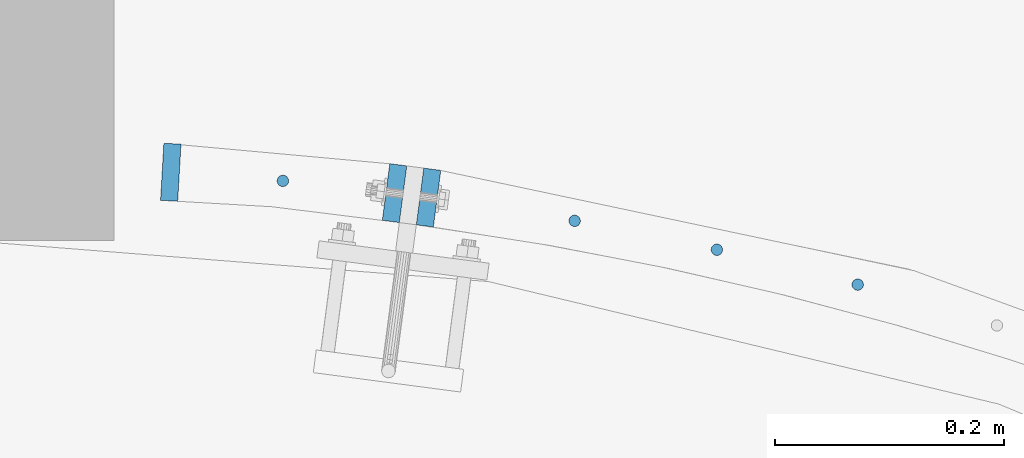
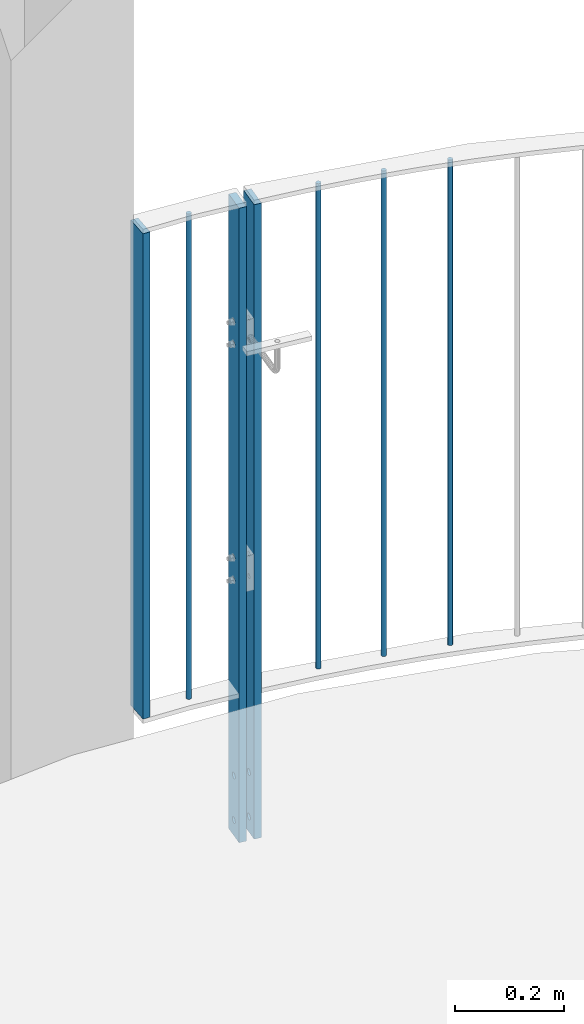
# One storey, part 76 of 296: 7 columns, 12 openings.
"""IFC2X3 building model written with IfcOpenShell, lengths in millimetres."""

from ifc_helpers import new_model, entity, si_unit, converted_unit, frame, frame_2d, origin, origin_with_axes, origin_2d, place, context, project, spatial, rectangle, circle, extrude, material, element, save


model = new_model("IFC2X3")

# Units and contexts
model_context = context("Model", 3, precision=1e-09, world=origin_with_axes())
ifc_project = project(units=[si_unit("LENGTHUNIT", "METRE", prefix="MILLI"), si_unit("AREAUNIT", "SQUARE_METRE"), si_unit("VOLUMEUNIT", "CUBIC_METRE"), converted_unit("PLANEANGLEUNIT", "DEGREE", entity("IfcPlaneAngleMeasure", 0.01745329), si_unit("PLANEANGLEUNIT", "RADIAN"), dimensions=[0, 0, 0, 0, 0, 0, 0])], contexts=[model_context])

# Site, building, storey
site_placement = place(None, origin_with_axes())
site = spatial("IfcSite", under=ifc_project, at=site_placement, Name="TZD-S?d | Treppenhausgel?nder", CompositionType="ELEMENT")
building_placement = place(site_placement, origin_with_axes())
building = spatial("IfcBuilding", under=site, at=building_placement, Name="Struktur 1", CompositionType="ELEMENT")
storey_placement = place(building_placement, origin_with_axes())
storey = spatial("IfcBuildingStorey", under=building, at=storey_placement, Name="Default Storey", CompositionType="ELEMENT", Elevation=0.0)

# Columns
ifc_material = material(Name="S235JR")
for number, where, z_axis, x_axis in (
    (1, (3705.629638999, 2786.294675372, 2450.0), (0.0, 0.0, -1.0), (-0.766044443, 0.64278761, 0.0)),
    (2, (3582.399315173, 2816.831044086, 2450.0), (0.0, 0.0, -1.0), (-0.766044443, 0.64278761, 0.0)),
    (3, (3457.983775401, 2842.108622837, 2450.0), (0.0, 0.0, -1.0), (-0.766044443, 0.64278761, 0.0)),
    (4, (3202.68123547, 2877.077951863, 2450.0), (0.0, 0.0, -1.0), (0.0, 1.0, 0.0)),
):
    element("IfcColumn", number, at=place(None, frame(where, z_axis=z_axis, x_axis=x_axis)), inside=storey, material=ifc_material, Name="-", ObjectType="-", context=model_context, shape_type="SweptSolid", body=[
        extrude(circle(Radius=5.0, at=origin_2d()), origin(), (0.0, 0.0, -1.0), 1090.0),
    ])
column_1_placement = place(None, frame((3104.604004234, 2884.610301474, 3540.0), z_axis=(0.0, 0.0, -1.0), x_axis=(0.998341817, -0.057564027, 0.0)))
element("IfcColumn", 5, at=column_1_placement, inside=storey, material=ifc_material, Name="-", ObjectType="-", context=model_context, shape_type="SweptSolid", body=[
    extrude(rectangle(XDim=15.0, YDim=50.0, at=origin_2d()), origin(), (0.0, 0.0, 1.0), 1090.0),
])

# Column, openings
column_2_placement = place(None, frame((3330.144987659, 2862.462242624, 2115.001), z_axis=(0.0, 0.0, -1.0), x_axis=(-0.991444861, 0.130526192, 0.0)))
column_2 = element("IfcColumn", 6, at=column_2_placement, inside=storey, material=ifc_material, Name="-", ObjectType="-", context=model_context, shape_type="SweptSolid", body=[
    extrude(rectangle(XDim=15.0, YDim=50.0, at=origin_2d()), origin(), (0.0, 0.0, -1.0), 1424.999),
])
opening_1_placement = place(column_2_placement, frame((8.0, 5.001, -624.999999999), z_axis=(1.0, 0.0, 0.0), x_axis=(0.0, 1.0, 0.0)))
element("IfcOpeningElement", 7, at=opening_1_placement, cuts=column_2, ObjectType="Opening", context=model_context, shape_type="SweptSolid", body=[
    extrude(circle(Radius=5.001, at=frame_2d((-5.001, 0.0), x_axis=(1.0, 0.0))), origin(), (0.0, 0.0, -1.0), 16.0),
])
opening_2_placement = place(column_2_placement, frame((8.0, 5.001, -574.999999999), z_axis=(1.0, 0.0, 0.0), x_axis=(0.0, 1.0, 0.0)))
element("IfcOpeningElement", 8, at=opening_2_placement, cuts=column_2, ObjectType="Opening", context=model_context, shape_type="SweptSolid", body=[
    extrude(circle(Radius=5.001, at=frame_2d((-5.001, 0.0), x_axis=(1.0, 0.0))), origin(), (0.0, 0.0, -1.0), 16.0),
])
opening_3_placement = place(column_2_placement, frame((8.0, 7.001, -135.0), z_axis=(1.0, 0.0, 0.0), x_axis=(0.0, 1.0, 0.0)))
element("IfcOpeningElement", 9, at=opening_3_placement, cuts=column_2, ObjectType="Opening", context=model_context, shape_type="SweptSolid", body=[
    extrude(circle(Radius=7.001, at=frame_2d((-7.001, 0.0), x_axis=(1.0, 0.0))), origin(), (0.0, 0.0, -1.0), 16.0),
])
opening_4_placement = place(column_2_placement, frame((8.0, 7.001, -35.0), z_axis=(1.0, 0.0, 0.0), x_axis=(0.0, 1.0, 0.0)))
element("IfcOpeningElement", 10, at=opening_4_placement, cuts=column_2, ObjectType="Opening", context=model_context, shape_type="SweptSolid", body=[
    extrude(circle(Radius=7.001, at=frame_2d((-7.001, 0.0), x_axis=(1.0, 0.0))), origin(), (0.0, 0.0, -1.0), 16.0),
])
opening_5_placement = place(column_2_placement, frame((8.0, 5.001, -1154.999999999), z_axis=(1.0, 0.0, 0.0), x_axis=(0.0, 1.0, 0.0)))
element("IfcOpeningElement", 11, at=opening_5_placement, cuts=column_2, ObjectType="Opening", context=model_context, shape_type="SweptSolid", body=[
    extrude(circle(Radius=5.001, at=frame_2d((-5.001, 0.0), x_axis=(1.0, 0.0))), origin(), (0.0, 0.0, -1.0), 16.0),
])
opening_6_placement = place(column_2_placement, frame((8.0, 5.001, -1104.999999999), z_axis=(1.0, 0.0, 0.0), x_axis=(0.0, 1.0, 0.0)))
element("IfcOpeningElement", 12, at=opening_6_placement, cuts=column_2, ObjectType="Opening", context=model_context, shape_type="SweptSolid", body=[
    extrude(circle(Radius=5.001, at=frame_2d((-5.001, 0.0), x_axis=(1.0, 0.0))), origin(), (0.0, 0.0, -1.0), 16.0),
])

column_3_placement = place(None, frame((3300.401641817, 2866.378028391, 2115.001), z_axis=(0.0, 0.0, 1.0), x_axis=(0.991444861, -0.130526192, 0.0)))
column_3 = element("IfcColumn", 13, at=column_3_placement, inside=storey, material=ifc_material, Name="-", ObjectType="-", context=model_context, shape_type="SweptSolid", body=[
    extrude(rectangle(XDim=15.0, YDim=50.0, at=origin_2d()), origin(), (0.0, 0.0, 1.0), 1424.999),
])
opening_7_placement = place(column_3_placement, frame((-8.0, 5.001, 1154.999999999), z_axis=(-1.0, 0.0, 0.0), x_axis=(0.0, -1.0, 0.0)))
element("IfcOpeningElement", 14, at=opening_7_placement, cuts=column_3, ObjectType="Opening", context=model_context, shape_type="SweptSolid", body=[
    extrude(circle(Radius=5.001, at=frame_2d((5.001, 0.0), x_axis=(1.0, 0.0))), origin(), (0.0, 0.0, -1.0), 16.0),
])
opening_8_placement = place(column_3_placement, frame((-8.0, 5.001, 1104.999999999), z_axis=(-1.0, 0.0, 0.0), x_axis=(0.0, -1.0, 0.0)))
element("IfcOpeningElement", 15, at=opening_8_placement, cuts=column_3, ObjectType="Opening", context=model_context, shape_type="SweptSolid", body=[
    extrude(circle(Radius=5.001, at=frame_2d((5.001, 0.0), x_axis=(1.0, 0.0))), origin(), (0.0, 0.0, -1.0), 16.0),
])
opening_9_placement = place(column_3_placement, frame((-8.0, 7.001, 135.0), z_axis=(-1.0, 0.0, 0.0), x_axis=(0.0, -1.0, 0.0)))
element("IfcOpeningElement", 16, at=opening_9_placement, cuts=column_3, ObjectType="Opening", context=model_context, shape_type="SweptSolid", body=[
    extrude(circle(Radius=7.001, at=frame_2d((7.001, 0.0), x_axis=(1.0, 0.0))), origin(), (0.0, 0.0, -1.0), 16.0),
])
opening_10_placement = place(column_3_placement, frame((-8.0, 7.001, 35.0), z_axis=(-1.0, 0.0, 0.0), x_axis=(0.0, -1.0, 0.0)))
element("IfcOpeningElement", 17, at=opening_10_placement, cuts=column_3, ObjectType="Opening", context=model_context, shape_type="SweptSolid", body=[
    extrude(circle(Radius=7.001, at=frame_2d((7.001, 0.0), x_axis=(1.0, 0.0))), origin(), (0.0, 0.0, -1.0), 16.0),
])
opening_11_placement = place(column_3_placement, frame((-8.0, 5.001, 624.999999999), z_axis=(-1.0, 0.0, 0.0), x_axis=(0.0, -1.0, 0.0)))
element("IfcOpeningElement", 18, at=opening_11_placement, cuts=column_3, ObjectType="Opening", context=model_context, shape_type="SweptSolid", body=[
    extrude(circle(Radius=5.001, at=frame_2d((5.001, 0.0), x_axis=(1.0, 0.0))), origin(), (0.0, 0.0, -1.0), 16.0),
])
opening_12_placement = place(column_3_placement, frame((-8.0, 5.001, 574.999999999), z_axis=(-1.0, 0.0, 0.0), x_axis=(0.0, -1.0, 0.0)))
element("IfcOpeningElement", 19, at=opening_12_placement, cuts=column_3, ObjectType="Opening", context=model_context, shape_type="SweptSolid", body=[
    extrude(circle(Radius=5.001, at=frame_2d((5.001, 0.0), x_axis=(1.0, 0.0))), origin(), (0.0, 0.0, -1.0), 16.0),
])

save(model, "model.ifc")
